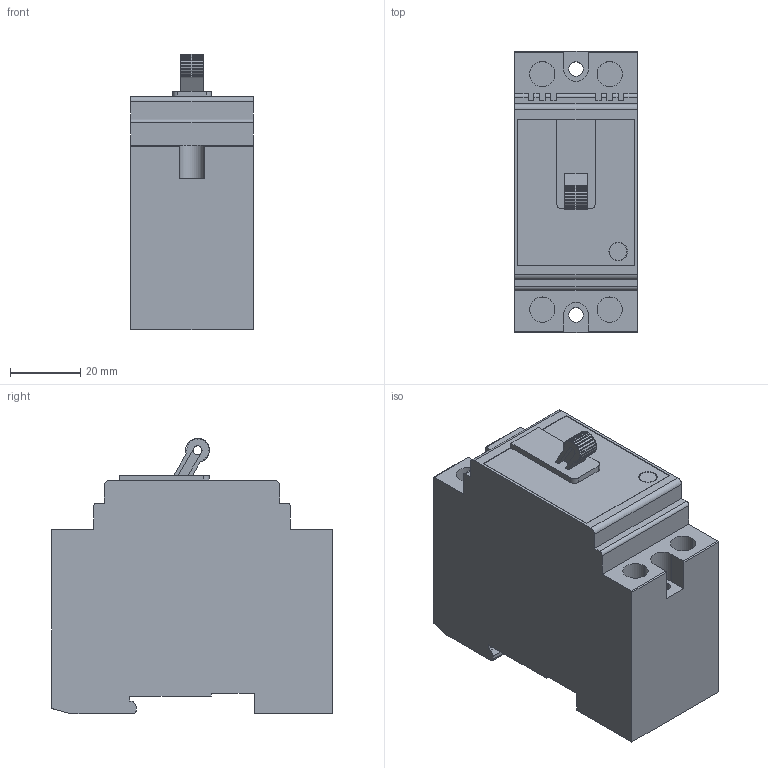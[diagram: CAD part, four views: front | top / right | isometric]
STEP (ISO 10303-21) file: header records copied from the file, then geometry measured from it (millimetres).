
FILE_DESCRIPTION (( 'STEP AP203' ), '1' );
FILE_NAME ('CN Type 2P.STEP', '2018-01-04T00:41:31', ( '' ), ( '' ), 'SwSTEP 2.0', 'SolidWorks 2015', '' );
FILE_SCHEMA (( 'CONFIG_CONTROL_DESIGN' ));
Length unit declared in the file: millimetre
Products named in the file (1): CN Type 2P
Bounding box: 35 x 80 x 78.45 mm (x, y, z)
Volume: 161129.2 mm3; surface area: 24075.7 mm2
Topology: 1 solids, 1 shells, 170 faces, 487 edges, 324 vertices
Faces by surface type: plane 115, cylinder 55
Entity records: 5637 total; most frequent: CARTESIAN_POINT 991, ORIENTED_EDGE 974, DIRECTION 939, EDGE_CURVE 487, LINE 371, VECTOR 371, VERTEX_POINT 324, AXIS2_PLACEMENT_3D 284
